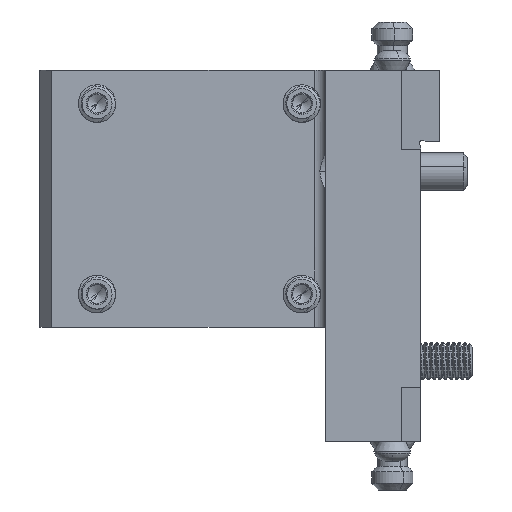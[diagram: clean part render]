
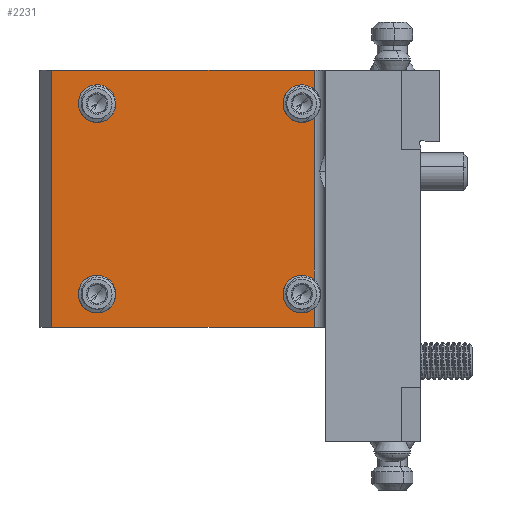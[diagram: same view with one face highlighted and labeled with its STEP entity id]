
A CAD part, left-side view. The second image highlights one B-rep face of the part: STEP entity #2231.
In plain terms, the highlighted planar face has unit normal (-1, 0, 0).
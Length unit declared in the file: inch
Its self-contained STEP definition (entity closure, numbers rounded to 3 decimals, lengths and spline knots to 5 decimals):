
#389 = DIRECTION ( 'NONE',  ( -1., 0., 0. ) ) ;
#609 = ORIENTED_EDGE ( 'NONE', *, *, #15221, .F. ) ;
#616 = EDGE_CURVE ( 'NONE', #10540, #8589, #1238, .T. ) ;
#662 = DIRECTION ( 'NONE',  ( 0., -1., 0. ) ) ;
#797 = DIRECTION ( 'NONE',  ( 0., -1., 0. ) ) ;
#800 = CIRCLE ( 'NONE', #12682, 0.19685 ) ;
#829 = ORIENTED_EDGE ( 'NONE', *, *, #5972, .F. ) ;
#1122 = CARTESIAN_POINT ( 'NONE',  ( -0.9, 3.4, 0.59685 ) ) ;
#1136 = CARTESIAN_POINT ( 'NONE',  ( -0.9, 3.4, -1.6 ) ) ;
#1143 = AXIS2_PLACEMENT_3D ( 'NONE', #13669, #20422, #662 ) ;
#1177 = AXIS2_PLACEMENT_3D ( 'NONE', #3050, #9731, #13215 ) ;
#1225 = ORIENTED_EDGE ( 'NONE', *, *, #10018, .F. ) ;
#1238 = CIRCLE ( 'NONE', #14183, 0.19685 ) ;
#1424 = CARTESIAN_POINT ( 'NONE',  ( -0.9, 1.25, 0.4 ) ) ;
#1481 = EDGE_CURVE ( 'NONE', #10534, #15340, #5461, .T. ) ;
#1767 = ORIENTED_EDGE ( 'NONE', *, *, #15190, .F. ) ;
#1843 = ORIENTED_EDGE ( 'NONE', *, *, #11883, .F. ) ;
#1857 = EDGE_LOOP ( 'NONE', ( #13453, #11690 ) ) ;
#2057 = ORIENTED_EDGE ( 'NONE', *, *, #18369, .F. ) ;
#2194 = CARTESIAN_POINT ( 'NONE',  ( -0.9, 1.25, 0.4 ) ) ;
#2199 = VERTEX_POINT ( 'NONE', #19955 ) ;
#2231 = ADVANCED_FACE ( 'NONE', ( #9942, #3366, #5118 ), #18016, .T. ) ;
#2273 = CARTESIAN_POINT ( 'NONE',  ( -0.9, 1.25, -1.40315 ) ) ;
#2443 = CARTESIAN_POINT ( 'NONE',  ( -0.9, 1.12, -1.74782 ) ) ;
#2668 = CARTESIAN_POINT ( 'NONE',  ( -0.9, 1.12, -3.15 ) ) ;
#2846 = CARTESIAN_POINT ( 'NONE',  ( -0.9, 3.87657, -1.95 ) ) ;
#3050 = CARTESIAN_POINT ( 'NONE',  ( -0.9, 3.87657, -3.15 ) ) ;
#3120 = CARTESIAN_POINT ( 'NONE',  ( -0.9, 1.12, 0.54782 ) ) ;
#3257 = VECTOR ( 'NONE', #17280, 39.37008 ) ;
#3366 = FACE_OUTER_BOUND ( 'NONE', #12769, .T. ) ;
#3368 = CARTESIAN_POINT ( 'NONE',  ( -0.9, 3.4, 0.4 ) ) ;
#3461 = CARTESIAN_POINT ( 'NONE',  ( -0.9, 1.25, 0.4 ) ) ;
#3848 = CARTESIAN_POINT ( 'NONE',  ( -0.9, 1.12, -3.15 ) ) ;
#4520 = CARTESIAN_POINT ( 'NONE',  ( -0.9, 1.12, -3.15 ) ) ;
#4596 = LINE ( 'NONE', #2846, #11484 ) ;
#4666 = CIRCLE ( 'NONE', #1143, 0.19685 ) ;
#4865 = VERTEX_POINT ( 'NONE', #20143 ) ;
#4889 = VERTEX_POINT ( 'NONE', #17328 ) ;
#4947 = VERTEX_POINT ( 'NONE', #1122 ) ;
#5006 = AXIS2_PLACEMENT_3D ( 'NONE', #5950, #389, #7072 ) ;
#5118 = FACE_BOUND ( 'NONE', #1857, .T. ) ;
#5206 = VECTOR ( 'NONE', #10221, 39.37008 ) ;
#5242 = ORIENTED_EDGE ( 'NONE', *, *, #15498, .F. ) ;
#5313 = CARTESIAN_POINT ( 'NONE',  ( -0.9, 1.25, -1.6 ) ) ;
#5461 = CIRCLE ( 'NONE', #20435, 0.19685 ) ;
#5504 = DIRECTION ( 'NONE',  ( -1., 0., 0. ) ) ;
#5507 = LINE ( 'NONE', #10012, #5206 ) ;
#5550 = EDGE_CURVE ( 'NONE', #4889, #2199, #5507, .T. ) ;
#5950 = CARTESIAN_POINT ( 'NONE',  ( -0.9, 1.25, -1.6 ) ) ;
#5971 = VECTOR ( 'NONE', #9473, 39.37008 ) ;
#5972 = EDGE_CURVE ( 'NONE', #20849, #4889, #7751, .T. ) ;
#6052 = DIRECTION ( 'NONE',  ( 0., -1., 0. ) ) ;
#6053 = CARTESIAN_POINT ( 'NONE',  ( -0.9, 1.12, -1.95 ) ) ;
#6194 = DIRECTION ( 'NONE',  ( -1., 0., 0. ) ) ;
#6460 = VERTEX_POINT ( 'NONE', #13784 ) ;
#6624 = CARTESIAN_POINT ( 'NONE',  ( -0.9, 3.4, -1.40315 ) ) ;
#6965 = DIRECTION ( 'NONE',  ( 0., -1., 0. ) ) ;
#7072 = DIRECTION ( 'NONE',  ( 0., -1., 0. ) ) ;
#7092 = CIRCLE ( 'NONE', #5006, 0.19685 ) ;
#7397 = EDGE_CURVE ( 'NONE', #4947, #6460, #800, .T. ) ;
#7684 = CIRCLE ( 'NONE', #19864, 0.19685 ) ;
#7699 = CIRCLE ( 'NONE', #17089, 0.19685 ) ;
#7751 = LINE ( 'NONE', #11012, #17068 ) ;
#7841 = ORIENTED_EDGE ( 'NONE', *, *, #1481, .F. ) ;
#8013 = VERTEX_POINT ( 'NONE', #8345 ) ;
#8345 = CARTESIAN_POINT ( 'NONE',  ( -0.9, 1.25, -1.79685 ) ) ;
#8589 = VERTEX_POINT ( 'NONE', #10266 ) ;
#8884 = DIRECTION ( 'NONE',  ( -1., 0., 0. ) ) ;
#9299 = ORIENTED_EDGE ( 'NONE', *, *, #616, .F. ) ;
#9473 = DIRECTION ( 'NONE',  ( 0., 0., 1. ) ) ;
#9731 = DIRECTION ( 'NONE',  ( -1., 0., 0. ) ) ;
#9942 = FACE_BOUND ( 'NONE', #20007, .T. ) ;
#10012 = CARTESIAN_POINT ( 'NONE',  ( -0.9, 3.87657, 0.75 ) ) ;
#10018 = EDGE_CURVE ( 'NONE', #10994, #20849, #4596, .T. ) ;
#10147 = DIRECTION ( 'NONE',  ( -1., 0., 0. ) ) ;
#10221 = DIRECTION ( 'NONE',  ( 0., -1., 0. ) ) ;
#10266 = CARTESIAN_POINT ( 'NONE',  ( -0.9, 1.25, 0.59685 ) ) ;
#10515 = VERTEX_POINT ( 'NONE', #11033 ) ;
#10534 = VERTEX_POINT ( 'NONE', #6624 ) ;
#10540 = VERTEX_POINT ( 'NONE', #3120 ) ;
#10888 = VERTEX_POINT ( 'NONE', #2443 ) ;
#10994 = VERTEX_POINT ( 'NONE', #6053 ) ;
#11012 = CARTESIAN_POINT ( 'NONE',  ( -0.9, 3.87657, -3.15 ) ) ;
#11033 = CARTESIAN_POINT ( 'NONE',  ( -0.9, 1.25, 0.20315 ) ) ;
#11044 = EDGE_CURVE ( 'NONE', #10540, #2199, #12823, .T. ) ;
#11269 = DIRECTION ( 'NONE',  ( 0., 1., 0. ) ) ;
#11484 = VECTOR ( 'NONE', #11269, 39.37008 ) ;
#11623 = CARTESIAN_POINT ( 'NONE',  ( -0.9, 1.12, -1.45218 ) ) ;
#11690 = ORIENTED_EDGE ( 'NONE', *, *, #7397, .F. ) ;
#11862 = EDGE_CURVE ( 'NONE', #16528, #8013, #7092, .T. ) ;
#11883 = EDGE_CURVE ( 'NONE', #8589, #10515, #17206, .T. ) ;
#12073 = DIRECTION ( 'NONE',  ( -1., 0., 0. ) ) ;
#12392 = DIRECTION ( 'NONE',  ( -1., 0., 0. ) ) ;
#12504 = CARTESIAN_POINT ( 'NONE',  ( -0.9, 3.4, 0.4 ) ) ;
#12653 = CIRCLE ( 'NONE', #19957, 0.19685 ) ;
#12682 = AXIS2_PLACEMENT_3D ( 'NONE', #3368, #12073, #797 ) ;
#12769 = EDGE_LOOP ( 'NONE', ( #2057, #19728, #609, #1843, #9299, #14148, #12771, #829, #1225, #18092, #1767, #17893 ) ) ;
#12771 = ORIENTED_EDGE ( 'NONE', *, *, #5550, .F. ) ;
#12823 = LINE ( 'NONE', #4520, #13908 ) ;
#12969 = DIRECTION ( 'NONE',  ( 0., 0., 1. ) ) ;
#13215 = DIRECTION ( 'NONE',  ( 0., -1., 0. ) ) ;
#13453 = ORIENTED_EDGE ( 'NONE', *, *, #17086, .F. ) ;
#13669 = CARTESIAN_POINT ( 'NONE',  ( -0.9, 1.25, -1.6 ) ) ;
#13784 = CARTESIAN_POINT ( 'NONE',  ( -0.9, 3.4, 0.20315 ) ) ;
#13888 = DIRECTION ( 'NONE',  ( 0., -1., 0. ) ) ;
#13908 = VECTOR ( 'NONE', #16085, 39.37008 ) ;
#14060 = EDGE_CURVE ( 'NONE', #10994, #10888, #17645, .T. ) ;
#14148 = ORIENTED_EDGE ( 'NONE', *, *, #11044, .T. ) ;
#14179 = VERTEX_POINT ( 'NONE', #11623 ) ;
#14183 = AXIS2_PLACEMENT_3D ( 'NONE', #2194, #8884, #13888 ) ;
#14489 = DIRECTION ( 'NONE',  ( 0., -1., 0. ) ) ;
#14564 = DIRECTION ( 'NONE',  ( 0., -1., 0. ) ) ;
#15190 = EDGE_CURVE ( 'NONE', #8013, #10888, #16722, .T. ) ;
#15221 = EDGE_CURVE ( 'NONE', #10515, #4865, #7684, .T. ) ;
#15316 = CARTESIAN_POINT ( 'NONE',  ( -0.9, 3.4, -1.6 ) ) ;
#15340 = VERTEX_POINT ( 'NONE', #19378 ) ;
#15498 = EDGE_CURVE ( 'NONE', #15340, #10534, #7699, .T. ) ;
#15629 = LINE ( 'NONE', #3848, #3257 ) ;
#15790 = AXIS2_PLACEMENT_3D ( 'NONE', #1424, #19566, #14564 ) ;
#16085 = DIRECTION ( 'NONE',  ( 0., 0., 1. ) ) ;
#16528 = VERTEX_POINT ( 'NONE', #2273 ) ;
#16722 = CIRCLE ( 'NONE', #17072, 0.19685 ) ;
#17068 = VECTOR ( 'NONE', #12969, 39.37008 ) ;
#17072 = AXIS2_PLACEMENT_3D ( 'NONE', #5313, #17215, #6965 ) ;
#17086 = EDGE_CURVE ( 'NONE', #6460, #4947, #12653, .T. ) ;
#17089 = AXIS2_PLACEMENT_3D ( 'NONE', #15316, #5504, #20222 ) ;
#17206 = CIRCLE ( 'NONE', #15790, 0.19685 ) ;
#17215 = DIRECTION ( 'NONE',  ( -1., 0., 0. ) ) ;
#17280 = DIRECTION ( 'NONE',  ( 0., 0., 1. ) ) ;
#17328 = CARTESIAN_POINT ( 'NONE',  ( -0.9, 3.87657, 0.75 ) ) ;
#17645 = LINE ( 'NONE', #2668, #5971 ) ;
#17893 = ORIENTED_EDGE ( 'NONE', *, *, #11862, .F. ) ;
#18016 = PLANE ( 'NONE',  #1177 ) ;
#18092 = ORIENTED_EDGE ( 'NONE', *, *, #14060, .T. ) ;
#18334 = EDGE_CURVE ( 'NONE', #14179, #4865, #15629, .T. ) ;
#18369 = EDGE_CURVE ( 'NONE', #14179, #16528, #4666, .T. ) ;
#18425 = DIRECTION ( 'NONE',  ( 0., -1., 0. ) ) ;
#19378 = CARTESIAN_POINT ( 'NONE',  ( -0.9, 3.4, -1.79685 ) ) ;
#19566 = DIRECTION ( 'NONE',  ( -1., 0., 0. ) ) ;
#19728 = ORIENTED_EDGE ( 'NONE', *, *, #18334, .T. ) ;
#19864 = AXIS2_PLACEMENT_3D ( 'NONE', #3461, #10147, #18425 ) ;
#19955 = CARTESIAN_POINT ( 'NONE',  ( -0.9, 1.12, 0.75 ) ) ;
#19957 = AXIS2_PLACEMENT_3D ( 'NONE', #12504, #12392, #6052 ) ;
#20007 = EDGE_LOOP ( 'NONE', ( #5242, #7841 ) ) ;
#20143 = CARTESIAN_POINT ( 'NONE',  ( -0.9, 1.12, 0.25218 ) ) ;
#20222 = DIRECTION ( 'NONE',  ( 0., -1., 0. ) ) ;
#20422 = DIRECTION ( 'NONE',  ( -1., 0., 0. ) ) ;
#20435 = AXIS2_PLACEMENT_3D ( 'NONE', #1136, #6194, #14489 ) ;
#20778 = CARTESIAN_POINT ( 'NONE',  ( -0.9, 3.87657, -1.95 ) ) ;
#20849 = VERTEX_POINT ( 'NONE', #20778 ) ;
